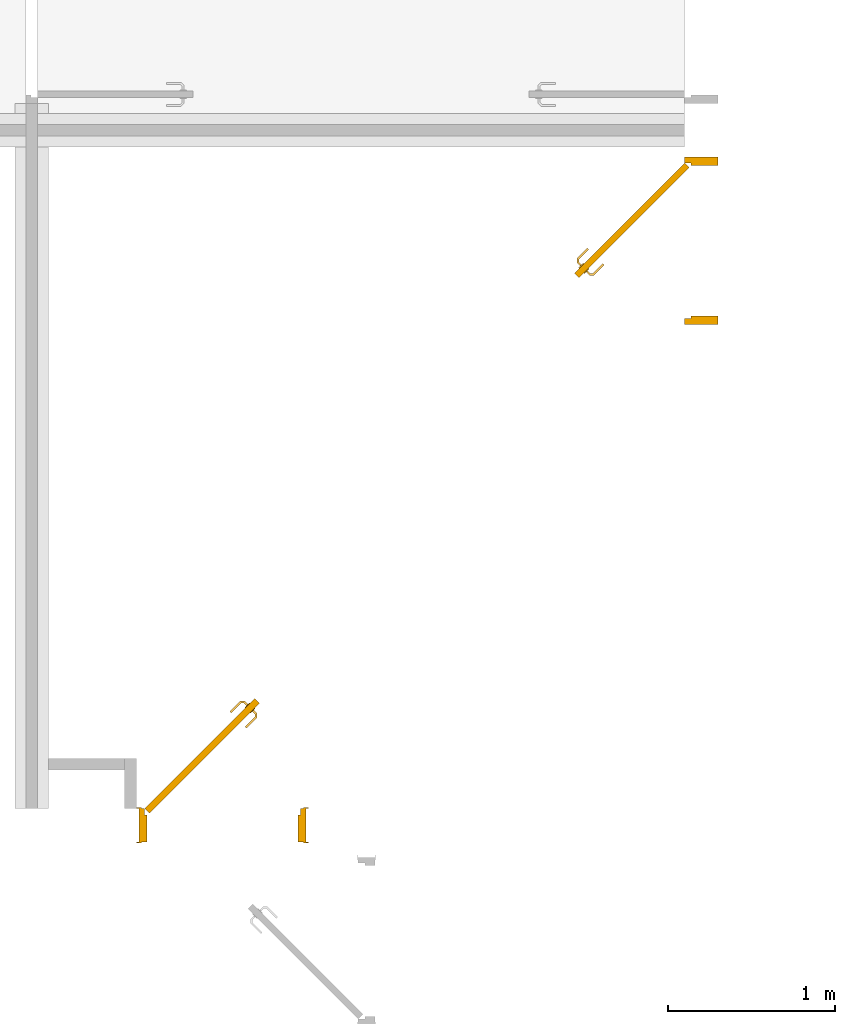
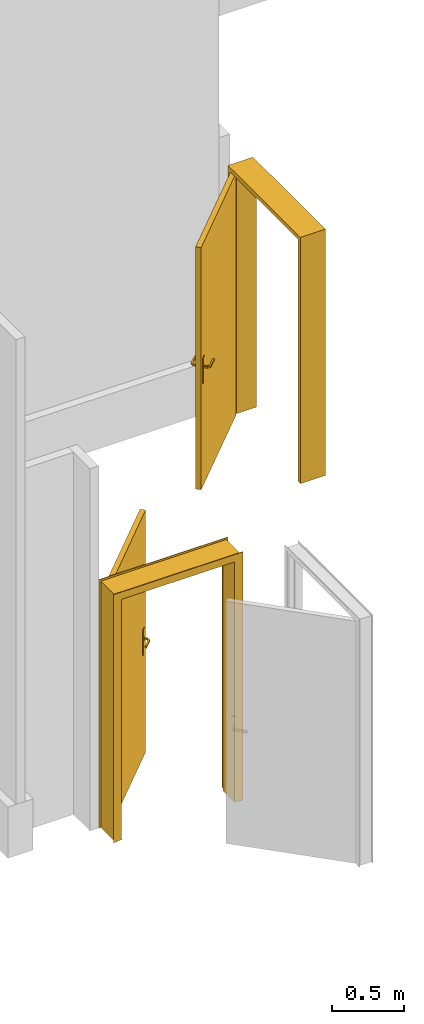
# One storey, part 16 of 18: 2 doors.
"""IFC2X3 building model written with IfcOpenShell, lengths in metres."""

from ifc_helpers import new_model, entity, si_unit, converted_unit, derived_unit, direction, frame, origin, place, context, subcontext, project, spatial, faceted_brep, source, transform, mapped, material, material_list, type_object, type_shapes, element, save


model = new_model("IFC2X3")

# Units and contexts
model_context = context("Model", 3, precision=1e-05, world=origin(), true_north=direction((6.12303176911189e-17, 1.0)))
body_context = subcontext(model_context, "Body", "Model", "MODEL_VIEW")
ifc_project = project(units=[si_unit("LENGTHUNIT", "METRE"), si_unit("AREAUNIT", "SQUARE_METRE"), si_unit("VOLUMEUNIT", "CUBIC_METRE"), converted_unit("PLANEANGLEUNIT", "DEGREE", entity("IfcRatioMeasure", 0.0174532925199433), si_unit("PLANEANGLEUNIT", "RADIAN"), dimensions=[0, 0, 0, 0, 0, 0, 0]), si_unit("MASSUNIT", "GRAM", prefix="KILO"), derived_unit("MASSDENSITYUNIT", [(si_unit("MASSUNIT", "GRAM", prefix="KILO"), 1), (si_unit("LENGTHUNIT", "METRE"), -3)]), si_unit("TIMEUNIT", "SECOND"), si_unit("FREQUENCYUNIT", "HERTZ"), si_unit("THERMODYNAMICTEMPERATUREUNIT", "DEGREE_CELSIUS"), derived_unit("THERMALTRANSMITTANCEUNIT", [(si_unit("MASSUNIT", "GRAM", prefix="KILO"), 1), (si_unit("THERMODYNAMICTEMPERATUREUNIT", "KELVIN"), -1), (si_unit("TIMEUNIT", "SECOND"), -3)]), derived_unit("VOLUMETRICFLOWRATEUNIT", [(si_unit("LENGTHUNIT", "METRE"), 3), (si_unit("TIMEUNIT", "SECOND"), -1)]), si_unit("ELECTRICCURRENTUNIT", "AMPERE"), si_unit("ELECTRICVOLTAGEUNIT", "VOLT"), si_unit("POWERUNIT", "WATT"), si_unit("FORCEUNIT", "NEWTON", prefix="KILO"), si_unit("ILLUMINANCEUNIT", "LUX"), si_unit("LUMINOUSFLUXUNIT", "LUMEN"), si_unit("LUMINOUSINTENSITYUNIT", "CANDELA"), derived_unit("USERDEFINED", [(si_unit("MASSUNIT", "GRAM", prefix="KILO"), -1), (si_unit("LENGTHUNIT", "METRE"), -2), (si_unit("TIMEUNIT", "SECOND"), 3), (si_unit("LUMINOUSFLUXUNIT", "LUMEN"), 1)]), derived_unit("LINEARVELOCITYUNIT", [(si_unit("LENGTHUNIT", "METRE"), 1), (si_unit("TIMEUNIT", "SECOND"), -1)]), si_unit("PRESSUREUNIT", "PASCAL"), derived_unit("USERDEFINED", [(si_unit("LENGTHUNIT", "METRE"), -2), (si_unit("MASSUNIT", "GRAM", prefix="KILO"), 1), (si_unit("TIMEUNIT", "SECOND"), -2)])], contexts=[model_context])

# Site, building, storey
site_placement = place(None, origin())
site = spatial("IfcSite", under=ifc_project, at=site_placement, Name="Surface", CompositionType="ELEMENT")
building_placement = place(site_placement, origin())
building = spatial("IfcBuilding", under=site, at=building_placement, Name="ExPREF", CompositionType="ELEMENT")
storey_placement = place(building_placement, frame((0.0, 0.0, -4.62)))
storey = spatial("IfcBuildingStorey", under=building, at=storey_placement, Name="R-1", CompositionType="ELEMENT", Elevation=-4.62)

# Doors
ifc_material_1 = material(Name="AA-Blanc satiné")
ifc_material_2 = material(Name="AA-Aluminium")
ifc_material_list_1 = material_list([ifc_material_1, ifc_material_2])
ifc_material_list_2 = material_list([ifc_material_1, ifc_material_2])
door_style_1 = type_object("IfcDoorStyle", Name="PP (0.93m x 2.04m) métal", ConstructionType="NOTDEFINED", OperationType="SINGLE_SWING_LEFT", ParameterTakesPrecedence=False, Sizeable=False, material=ifc_material_list_2)
shared_shape_1 = source(origin(), body_context, "Body", "Brep", [
    faceted_brep([(0.316565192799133, -0.584795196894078, 1.00778044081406), (0.313754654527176, -0.587605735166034, 1.007), (0.313754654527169, -0.587605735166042, 0.992999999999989), (0.316565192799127, -0.584795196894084, 0.99221955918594), (0.319429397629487, -0.581930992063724, 0.992219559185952), (0.32223993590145, -0.579120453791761, 0.993000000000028), (0.322239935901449, -0.579120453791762, 1.007), (0.319429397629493, -0.581930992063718, 1.00778044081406), (0.306340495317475, -0.563221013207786, 0.993000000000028), (0.306340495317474, -0.563221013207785, 1.007), (0.302365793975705, -0.564867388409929, 1.00778044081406), (0.302365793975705, -0.545331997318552, 1.00778044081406), (0.298315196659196, -0.543654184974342, 1.00778044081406), (0.298315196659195, -0.566545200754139, 1.00778044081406), (0.294340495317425, -0.568191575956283, 1.007), (0.294340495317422, -0.56819157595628, 0.992999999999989), (0.298315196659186, -0.566545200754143, 0.99221955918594), (0.298315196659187, -0.543654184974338, 0.99221955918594), (0.302365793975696, -0.545331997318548, 0.992219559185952), (0.302365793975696, -0.564867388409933, 0.992219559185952), (0.306340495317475, -0.546978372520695, 0.993000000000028), (0.306340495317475, -0.546978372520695, 1.007), (0.294340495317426, -0.542007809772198, 1.007), (0.294340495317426, -0.542007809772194, 0.992999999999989), (0.36471958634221, -0.488599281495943, 0.993000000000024), (0.361909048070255, -0.485788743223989, 0.992219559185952), (0.359044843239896, -0.482924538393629, 0.99221955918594), (0.356234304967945, -0.480114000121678, 0.992999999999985), (0.356234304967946, -0.480114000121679, 1.007), (0.359044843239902, -0.482924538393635, 1.00778044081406), (0.361909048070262, -0.485788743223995, 1.00778044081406), (0.364719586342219, -0.488599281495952, 1.007), (0.335530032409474, -0.517788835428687, 0.993000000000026), (0.335530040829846, -0.517788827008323, 1.007), (0.330705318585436, -0.51412826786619, 1.0078786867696), (0.322575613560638, -0.513772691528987, 1.007), (0.322575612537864, -0.513772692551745, 0.992999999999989), (0.330705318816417, -0.514128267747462, 0.992121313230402)], [[[0, 1, 2, 3, 4, 5, 6, 7]], [[6, 5, 8, 9]], [[9, 10, 7, 6]], [[10, 11, 12, 13, 0, 7]], [[13, 14, 1, 0]], [[2, 1, 14, 15]], [[15, 16, 3, 2]], [[16, 17, 18, 19, 4, 3]], [[19, 8, 5, 4]], [[9, 8, 20, 21]], [[21, 11, 10, 9]], [[12, 22, 14, 13]], [[15, 14, 22, 23]], [[23, 17, 16, 15]], [[18, 20, 8, 19]], [[24, 25, 26, 27, 28, 29, 30, 31]], [[21, 20, 32, 24, 31, 33]], [[33, 30, 34]], [[35, 34, 29]], [[21, 33, 11]], [[33, 31, 30]], [[28, 35, 29]], [[22, 12, 35]], [[35, 12, 34]], [[12, 11, 34]], [[11, 33, 34]], [[29, 34, 30]], [[22, 35, 28, 27, 36, 23]], [[36, 26, 37]], [[27, 26, 36]], [[17, 23, 36]], [[37, 32, 18]], [[20, 18, 32]], [[32, 25, 24]], [[26, 25, 37]], [[25, 32, 37]], [[17, 36, 37]], [[17, 37, 18]]]),
    faceted_brep([(0.351920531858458, -0.620150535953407, 1.00778044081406), (0.354784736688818, -0.617286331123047, 1.00778044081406), (0.357595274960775, -0.61447579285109, 1.00699999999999), (0.357595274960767, -0.614475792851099, 0.993000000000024), (0.354784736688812, -0.617286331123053, 0.992219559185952), (0.351920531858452, -0.620150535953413, 0.99221955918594), (0.349109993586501, -0.622961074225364, 0.992999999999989), (0.349109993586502, -0.622961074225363, 1.007), (0.368662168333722, -0.642513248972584, 1.007), (0.370308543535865, -0.638538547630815, 1.00778044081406), (0.393005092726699, -0.638538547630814, 1.00778044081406), (0.391327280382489, -0.634487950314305, 1.00778044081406), (0.371986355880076, -0.634487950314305, 1.00778044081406), (0.373632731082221, -0.630513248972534, 1.007), (0.373632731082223, -0.630513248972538, 0.993000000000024), (0.371986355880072, -0.634487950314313, 0.992219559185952), (0.391327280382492, -0.634487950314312, 0.992219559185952), (0.393005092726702, -0.638538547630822, 0.99221955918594), (0.370308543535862, -0.638538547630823, 0.99221955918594), (0.368662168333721, -0.642513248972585, 0.992999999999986), (0.394651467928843, -0.642513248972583, 1.007), (0.389680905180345, -0.630513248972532, 1.007), (0.38968090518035, -0.630513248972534, 0.993000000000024), (0.394651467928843, -0.642513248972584, 0.992999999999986), (0.456623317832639, -0.5805413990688, 0.992999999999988), (0.453812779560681, -0.577730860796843, 0.99221955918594), (0.450948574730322, -0.574866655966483, 0.992219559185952), (0.448138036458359, -0.57205611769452, 0.993000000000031), (0.44813803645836, -0.572056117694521, 1.007), (0.450948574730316, -0.574866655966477, 1.00778044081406), (0.453812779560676, -0.577730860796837, 1.00778044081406), (0.456623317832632, -0.580541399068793, 1.00699999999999), (0.422886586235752, -0.614278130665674, 1.007), (0.422570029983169, -0.606109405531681, 1.0078786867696), (0.418909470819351, -0.601284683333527, 1.007), (0.418909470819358, -0.601284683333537, 0.993000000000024), (0.422570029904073, -0.606109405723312, 0.992121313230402), (0.422886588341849, -0.614278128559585, 0.992999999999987)], [[[0, 1, 2, 3, 4, 5, 6, 7]], [[8, 9, 0, 7]], [[9, 10, 11, 12, 1, 0]], [[12, 13, 2, 1]], [[3, 2, 13, 14]], [[14, 15, 4, 3]], [[15, 16, 17, 18, 5, 4]], [[18, 19, 6, 5]], [[7, 6, 19, 8]], [[20, 10, 9, 8]], [[11, 21, 13, 12]], [[14, 13, 21, 22]], [[22, 16, 15, 14]], [[17, 23, 19, 18]], [[8, 19, 23, 20]], [[24, 25, 26, 27, 28, 29, 30, 31]], [[32, 30, 33]], [[31, 30, 32]], [[10, 20, 32]], [[33, 34, 11]], [[21, 11, 34]], [[34, 29, 28]], [[30, 29, 33]], [[29, 34, 33]], [[10, 32, 33]], [[10, 33, 11]], [[22, 21, 34, 28, 27, 35]], [[35, 26, 36]], [[37, 36, 25]], [[22, 35, 16]], [[35, 27, 26]], [[24, 37, 25]], [[23, 17, 37]], [[37, 17, 36]], [[17, 16, 36]], [[16, 35, 36]], [[25, 36, 26]], [[20, 23, 37, 24, 31, 32]]]),
    faceted_brep([(0.328853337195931, -0.579578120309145, 0.866003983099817), (0.335674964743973, -0.572756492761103, 0.870000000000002), (0.335674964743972, -0.572756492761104, 1.08), (0.32885333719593, -0.579578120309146, 1.08399601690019), (0.321532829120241, -0.586898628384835, 1.08535898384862), (0.314212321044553, -0.594219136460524, 1.08399601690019), (0.307390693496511, -0.601040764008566, 1.08), (0.307390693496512, -0.601040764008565, 0.870000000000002), (0.314212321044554, -0.594219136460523, 0.866003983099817), (0.321532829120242, -0.586898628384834, 0.86464101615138), (0.325317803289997, -0.576042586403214, 1.08399601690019), (0.332139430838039, -0.569220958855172, 1.08), (0.33213943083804, -0.569220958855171, 0.870000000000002), (0.325317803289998, -0.576042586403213, 0.866003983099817), (0.31799729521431, -0.583363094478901, 0.86464101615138), (0.310676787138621, -0.59068360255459, 0.866003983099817), (0.303855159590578, -0.597505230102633, 0.870000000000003), (0.303855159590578, -0.597505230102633, 1.08), (0.31067678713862, -0.590683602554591, 1.08399601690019), (0.317997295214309, -0.583363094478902, 1.08535898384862)], [[[0, 1, 2, 3, 4, 5, 6, 7, 8, 9]], [[10, 11, 12, 13, 14, 15, 16, 17, 18, 19]], [[11, 10, 3, 2]], [[3, 10, 19, 4]], [[19, 18, 5, 4]], [[18, 17, 6, 5]], [[7, 6, 17, 16]], [[16, 15, 8, 7]], [[8, 15, 14, 9]], [[14, 13, 0, 9]], [[13, 12, 1, 0]], [[2, 1, 12, 11]]]),
    faceted_brep([(0.360673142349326, -0.61139792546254, 0.866003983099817), (0.367494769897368, -0.604576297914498, 0.870000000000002), (0.367494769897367, -0.604576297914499, 1.08), (0.360673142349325, -0.611397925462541, 1.08399601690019), (0.353352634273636, -0.61871843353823, 1.08535898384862), (0.346032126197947, -0.626038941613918, 1.08399601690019), (0.339210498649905, -0.63286056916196, 1.08), (0.339210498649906, -0.632860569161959, 0.870000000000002), (0.346032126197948, -0.626038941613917, 0.866003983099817), (0.353352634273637, -0.618718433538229, 0.86464101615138), (0.357137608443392, -0.607862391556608, 1.08399601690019), (0.363959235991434, -0.601040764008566, 1.08), (0.363959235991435, -0.601040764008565, 0.870000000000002), (0.357137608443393, -0.607862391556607, 0.866003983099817), (0.349817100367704, -0.615182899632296, 0.86464101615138), (0.342496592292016, -0.622503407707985, 0.866003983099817), (0.335674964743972, -0.629325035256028, 0.870000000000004), (0.335674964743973, -0.629325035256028, 1.08), (0.342496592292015, -0.622503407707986, 1.08399601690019), (0.349817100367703, -0.615182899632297, 1.08535898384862)], [[[0, 1, 2, 3, 4, 5, 6, 7, 8, 9]], [[10, 11, 12, 13, 14, 15, 16, 17, 18, 19]], [[16, 15, 8, 7]], [[8, 15, 14, 9]], [[14, 13, 0, 9]], [[13, 12, 1, 0]], [[2, 1, 12, 11]], [[11, 10, 3, 2]], [[3, 10, 19, 4]], [[19, 18, 5, 4]], [[18, 17, 6, 5]], [[7, 6, 17, 16]]]),
    faceted_brep([(0.279106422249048, -0.629325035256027, 2.04), (0.936715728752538, 0.0282842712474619, 2.04), (0.936715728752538, 0.0282842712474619, 0.0), (0.279106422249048, -0.629325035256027, 0.0), (0.30739069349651, -0.657609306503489, 2.04), (0.30739069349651, -0.657609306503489, 0.0), (0.965, 0.0, 0.0), (0.965, 0.0, 2.04)], [[[0, 1, 2, 3]], [[4, 5, 6, 7]], [[1, 0, 4, 7]], [[2, 1, 7, 6]], [[3, 2, 6, 5]], [[0, 3, 5, 4]]]),
    faceted_brep([(0.0, 0.0, 0.0), (0.0, 0.200000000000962, 0.0), (0.0499999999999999, 0.200000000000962, 0.0), (0.0499999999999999, 0.040000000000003, 0.0), (0.0349999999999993, 0.040000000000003, 0.0), (0.0349999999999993, 0.0, 0.0), (0.0, 0.0, 2.07500000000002), (0.0, 0.200000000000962, 2.07500000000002), (1.0, 0.200000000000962, 2.07500000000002), (1.0, 0.200000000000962, 0.0), (0.95, 0.200000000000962, 0.0), (0.95, 0.200000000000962, 2.025), (0.0500000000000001, 0.200000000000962, 2.025), (0.05, 0.040000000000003, 2.025), (0.95, 0.040000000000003, 2.025), (0.95, 0.040000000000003, 0.0), (0.965, 0.040000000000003, 0.0), (0.965, 0.040000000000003, 2.04), (0.0349999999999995, 0.040000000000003, 2.04), (0.0349999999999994, 0.0, 2.04), (0.965, 0.0, 2.04), (0.965, 0.0, 0.0), (1.0, 0.0, 0.0), (1.0, 0.0, 2.07500000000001)], [[[0, 1, 2, 3, 4, 5]], [[1, 0, 6, 7]], [[2, 1, 7, 8, 9, 10, 11, 12]], [[3, 2, 12, 13]], [[4, 3, 13, 14, 15, 16, 17, 18]], [[5, 4, 18, 19]], [[0, 5, 19, 20, 21, 22, 23, 6]], [[8, 23, 22, 9]], [[22, 21, 16, 15, 10, 9]], [[14, 11, 10, 15]], [[20, 17, 16, 21]], [[7, 6, 23, 8]], [[13, 12, 11, 14]], [[19, 18, 17, 20]]]),
    faceted_brep([(0.0149999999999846, 0.200000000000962, 0.0), (-0.0150000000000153, 0.200000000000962, 0.0), (-0.0150000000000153, 0.205000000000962, 0.0), (0.0149999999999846, 0.205000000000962, 0.0), (0.0149999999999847, 0.200000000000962, 2.06000000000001), (0.98499999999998, 0.200000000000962, 2.06000000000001), (0.98499999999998, 0.200000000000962, 0.0), (1.01499999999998, 0.200000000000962, 0.0), (1.01499999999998, 0.200000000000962, 2.09000000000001), (-0.0150000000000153, 0.200000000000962, 2.09000000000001), (-0.0150000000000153, 0.205000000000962, 2.09000000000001), (1.01499999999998, 0.205000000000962, 2.09000000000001), (1.01499999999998, 0.205000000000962, 0.0), (0.98499999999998, 0.205000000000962, 0.0), (0.98499999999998, 0.205000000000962, 2.06000000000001), (0.0149999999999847, 0.205000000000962, 2.06000000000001)], [[[0, 1, 2, 3]], [[1, 0, 4, 5, 6, 7, 8, 9]], [[2, 1, 9, 10]], [[3, 2, 10, 11, 12, 13, 14, 15]], [[0, 3, 15, 4]], [[6, 13, 12, 7]], [[5, 14, 13, 6]], [[11, 8, 7, 12]], [[10, 9, 8, 11]], [[4, 15, 14, 5]]]),
    faceted_brep([(-0.0150000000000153, -0.00500000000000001, 0.0), (0.0149999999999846, -0.00500000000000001, 0.0), (0.0149999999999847, -0.00500000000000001, 2.06000000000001), (0.98499999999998, -0.00500000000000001, 2.06000000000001), (0.98499999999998, -0.00500000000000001, 0.0), (1.01499999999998, -0.00500000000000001, 0.0), (1.01499999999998, -0.00500000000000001, 2.09000000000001), (-0.0150000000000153, -0.00500000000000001, 2.09000000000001), (-0.0150000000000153, 0.0, 0.0), (-0.0150000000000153, 0.0, 2.09000000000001), (0.0149999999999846, 0.0, 0.0), (1.01499999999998, 0.0, 2.09000000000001), (1.01499999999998, 0.0, 0.0), (0.98499999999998, 0.0, 0.0), (0.98499999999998, 0.0, 2.06000000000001), (0.0149999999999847, 0.0, 2.06000000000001)], [[[0, 1, 2, 3, 4, 5, 6, 7]], [[8, 0, 7, 9]], [[10, 8, 9, 11, 12, 13, 14, 15]], [[1, 10, 15, 2]], [[3, 14, 13, 4]], [[11, 6, 5, 12]], [[9, 7, 6, 11]], [[2, 15, 14, 3]], [[4, 13, 12, 5]], [[1, 0, 8, 10]]]),
])
type_shapes(door_style_1, [shared_shape_1])
door_1_placement = place(storey_placement, frame((59.1297436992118, -193.259651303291, 0.0), z_axis=(0.0, 0.0, 1.0), x_axis=(-1.0, 0.0, 0.0)))
element("IfcDoor", 1, at=door_1_placement, inside=storey, type_object=door_style_1, material=ifc_material_list_1, Name="Int. Simple:PP (0.93m x 2.04m) métal", ObjectType="PP (0.93m x 2.04m) métal", OverallHeight=2.09000000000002, OverallWidth=1.03, context=body_context, shape_type="MappedRepresentation", body=[
    mapped(shared_shape_1, transform((0.0, 0.0, 0.0), scale=1.0)),
])
door_style_2 = type_object("IfcDoorStyle", Name="PP (0.93m x 2.04m)", ConstructionType="NOTDEFINED", OperationType="SINGLE_SWING_RIGHT", ParameterTakesPrecedence=False, Sizeable=False, material=ifc_material_1)
shared_shape_2 = source(origin(), body_context, "Body", "Brep", [
    faceted_brep([(0.750570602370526, -0.581930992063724, 0.992219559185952), (0.753434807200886, -0.584795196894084, 0.99221955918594), (0.756245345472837, -0.587605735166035, 0.992999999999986), (0.756245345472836, -0.587605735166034, 1.007), (0.75343480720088, -0.584795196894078, 1.00778044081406), (0.75057060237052, -0.581930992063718, 1.00778044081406), (0.747760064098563, -0.579120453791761, 1.007), (0.747760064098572, -0.57912045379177, 0.993000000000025), (0.763659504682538, -0.563221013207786, 1.007), (0.763659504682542, -0.563221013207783, 0.993000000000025), (0.767634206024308, -0.56486738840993, 1.00778044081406), (0.771684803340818, -0.56654520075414, 1.00778044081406), (0.771684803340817, -0.543654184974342, 1.00778044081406), (0.767634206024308, -0.545331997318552, 1.00778044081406), (0.775659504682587, -0.568191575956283, 1.007), (0.775659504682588, -0.568191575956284, 0.992999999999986), (0.771684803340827, -0.566545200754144, 0.99221955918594), (0.767634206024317, -0.564867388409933, 0.992219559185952), (0.767634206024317, -0.545331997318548, 0.992219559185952), (0.771684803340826, -0.543654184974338, 0.99221955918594), (0.763659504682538, -0.546978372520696, 1.007), (0.763659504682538, -0.546978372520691, 0.993000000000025), (0.775659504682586, -0.542007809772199, 1.007), (0.775659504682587, -0.542007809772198, 0.992999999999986), (0.708090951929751, -0.485788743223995, 1.00778044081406), (0.710955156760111, -0.482924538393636, 1.00778044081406), (0.713765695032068, -0.480114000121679, 1.007), (0.713765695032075, -0.480114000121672, 0.992999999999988), (0.710955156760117, -0.48292453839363, 0.99221955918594), (0.708090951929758, -0.485788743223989, 0.992219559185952), (0.705280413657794, -0.488599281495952, 0.993000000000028), (0.705280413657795, -0.488599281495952, 1.007), (0.734469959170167, -0.517788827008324, 1.007), (0.734469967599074, -0.517788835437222, 0.993000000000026), (0.739294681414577, -0.51412826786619, 1.0078786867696), (0.747424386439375, -0.513772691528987, 1.007), (0.747424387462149, -0.513772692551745, 0.992999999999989), (0.739294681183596, -0.514128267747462, 0.992121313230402)], [[[0, 1, 2, 3, 4, 5, 6, 7]], [[8, 9, 7, 6]], [[5, 10, 8, 6]], [[5, 4, 11, 12, 13, 10]], [[3, 14, 11, 4]], [[14, 3, 2, 15]], [[2, 1, 16, 15]], [[1, 0, 17, 18, 19, 16]], [[0, 7, 9, 17]], [[20, 21, 9, 8]], [[8, 10, 13, 20]], [[14, 22, 12, 11]], [[23, 22, 14, 15]], [[15, 16, 19, 23]], [[17, 9, 21, 18]], [[24, 25, 26, 27, 28, 29, 30, 31]], [[21, 20, 32, 31, 30, 33]], [[34, 24, 32]], [[25, 34, 35]], [[13, 32, 20]], [[24, 31, 32]], [[25, 35, 26]], [[35, 12, 22]], [[34, 12, 35]], [[34, 13, 12]], [[34, 32, 13]], [[24, 34, 25]], [[22, 23, 36, 27, 26, 35]], [[37, 28, 36]], [[36, 28, 27]], [[36, 23, 19]], [[18, 33, 37]], [[33, 18, 21]], [[30, 29, 33]], [[37, 29, 28]], [[37, 33, 29]], [[37, 36, 19]], [[18, 37, 19]]]),
    faceted_brep([(0.715215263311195, -0.617286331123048, 1.00778044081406), (0.718079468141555, -0.620150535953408, 1.00778044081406), (0.720890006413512, -0.622961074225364, 1.00699999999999), (0.720890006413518, -0.622961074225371, 0.992999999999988), (0.718079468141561, -0.620150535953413, 0.99221955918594), (0.715215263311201, -0.617286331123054, 0.992219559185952), (0.712404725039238, -0.614475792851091, 0.993000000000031), (0.712404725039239, -0.614475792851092, 1.007), (0.699691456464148, -0.638538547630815, 1.00778044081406), (0.701337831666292, -0.642513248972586, 1.007), (0.698013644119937, -0.634487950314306, 1.00778044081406), (0.678672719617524, -0.634487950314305, 1.00778044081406), (0.676994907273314, -0.638538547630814, 1.00778044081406), (0.696367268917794, -0.630513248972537, 1.007), (0.696367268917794, -0.630513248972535, 0.993000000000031), (0.698013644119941, -0.634487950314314, 0.992219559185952), (0.699691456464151, -0.638538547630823, 0.99221955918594), (0.676994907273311, -0.638538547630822, 0.99221955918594), (0.678672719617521, -0.634487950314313, 0.992219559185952), (0.701337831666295, -0.642513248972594, 0.992999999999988), (0.67534853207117, -0.642513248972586, 1.007), (0.680319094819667, -0.630513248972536, 1.007), (0.680319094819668, -0.630513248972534, 0.993000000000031), (0.675348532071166, -0.642513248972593, 0.992999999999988), (0.613376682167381, -0.580541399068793, 1.007), (0.616187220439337, -0.577730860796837, 1.00778044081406), (0.619051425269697, -0.574866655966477, 1.00778044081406), (0.621861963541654, -0.57205611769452, 1.00699999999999), (0.621861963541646, -0.572056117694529, 0.993000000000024), (0.619051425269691, -0.574866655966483, 0.992219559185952), (0.616187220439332, -0.577730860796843, 0.99221955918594), (0.613376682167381, -0.580541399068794, 0.992999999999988), (0.647429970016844, -0.606109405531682, 1.0078786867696), (0.647113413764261, -0.614278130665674, 1.007), (0.651090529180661, -0.601284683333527, 1.007), (0.651090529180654, -0.601284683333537, 0.993000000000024), (0.64742997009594, -0.606109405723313, 0.992121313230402), (0.64711341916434, -0.61427813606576, 0.992999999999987)], [[[0, 1, 2, 3, 4, 5, 6, 7]], [[2, 1, 8, 9]], [[1, 0, 10, 11, 12, 8]], [[0, 7, 13, 10]], [[14, 13, 7, 6]], [[5, 15, 14, 6]], [[5, 4, 16, 17, 18, 15]], [[3, 19, 16, 4]], [[9, 19, 3, 2]], [[9, 8, 12, 20]], [[10, 13, 21, 11]], [[22, 21, 13, 14]], [[14, 15, 18, 22]], [[16, 19, 23, 17]], [[20, 23, 19, 9]], [[24, 25, 26, 27, 28, 29, 30, 31]], [[32, 25, 33]], [[33, 25, 24]], [[33, 20, 12]], [[11, 34, 32]], [[34, 11, 21]], [[27, 26, 34]], [[32, 26, 25]], [[32, 34, 26]], [[32, 33, 12]], [[11, 32, 12]], [[21, 22, 35, 28, 27, 34]], [[36, 29, 35]], [[30, 36, 37]], [[18, 35, 22]], [[29, 28, 35]], [[30, 37, 31]], [[37, 17, 23]], [[36, 17, 37]], [[36, 18, 17]], [[36, 35, 18]], [[29, 36, 30]], [[23, 20, 33, 24, 31, 37]]]),
    faceted_brep([(0.762609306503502, -0.601040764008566, 0.870000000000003), (0.762609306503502, -0.601040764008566, 1.08), (0.75578767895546, -0.594219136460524, 1.08399601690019), (0.748467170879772, -0.586898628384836, 1.08535898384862), (0.741146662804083, -0.579578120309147, 1.08399601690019), (0.734325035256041, -0.572756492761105, 1.08), (0.73432503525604, -0.572756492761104, 0.870000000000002), (0.741146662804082, -0.579578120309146, 0.866003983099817), (0.748467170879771, -0.586898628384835, 0.86464101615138), (0.755787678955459, -0.594219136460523, 0.866003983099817), (0.752002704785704, -0.583363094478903, 1.08535898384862), (0.759323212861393, -0.590683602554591, 1.08399601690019), (0.766144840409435, -0.597505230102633, 1.08), (0.766144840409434, -0.597505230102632, 0.870000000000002), (0.759323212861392, -0.59068360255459, 0.866003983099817), (0.752002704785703, -0.583363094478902, 0.86464101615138), (0.744682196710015, -0.576042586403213, 0.866003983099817), (0.737860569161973, -0.569220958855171, 0.870000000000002), (0.737860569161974, -0.569220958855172, 1.08), (0.744682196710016, -0.576042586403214, 1.08399601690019)], [[[0, 1, 2, 3, 4, 5, 6, 7, 8, 9]], [[10, 11, 12, 13, 14, 15, 16, 17, 18, 19]], [[4, 19, 18, 5]], [[3, 10, 19, 4]], [[2, 11, 10, 3]], [[2, 1, 12, 11]], [[13, 12, 1, 0]], [[9, 14, 13, 0]], [[8, 15, 14, 9]], [[7, 16, 15, 8]], [[7, 6, 17, 16]], [[17, 6, 5, 18]]]),
    faceted_brep([(0.730789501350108, -0.632860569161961, 0.870000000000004), (0.730789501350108, -0.632860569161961, 1.08), (0.723967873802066, -0.626038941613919, 1.08399601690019), (0.716647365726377, -0.61871843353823, 1.08535898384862), (0.709326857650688, -0.611397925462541, 1.08399601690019), (0.702505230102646, -0.604576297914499, 1.08), (0.702505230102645, -0.604576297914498, 0.870000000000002), (0.709326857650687, -0.61139792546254, 0.866003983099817), (0.716647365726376, -0.618718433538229, 0.86464101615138), (0.723967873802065, -0.626038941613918, 0.866003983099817), (0.73432503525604, -0.629325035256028, 1.08), (0.73432503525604, -0.629325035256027, 0.870000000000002), (0.727503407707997, -0.622503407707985, 0.866003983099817), (0.720182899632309, -0.615182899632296, 0.86464101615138), (0.71286239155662, -0.607862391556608, 0.866003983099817), (0.706040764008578, -0.601040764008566, 0.870000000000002), (0.706040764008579, -0.601040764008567, 1.08), (0.712862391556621, -0.607862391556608, 1.08399601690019), (0.72018289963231, -0.615182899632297, 1.08535898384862), (0.727503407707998, -0.622503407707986, 1.08399601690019)], [[[0, 1, 2, 3, 4, 5, 6, 7, 8, 9]], [[10, 11, 12, 13, 14, 15, 16, 17, 18, 19]], [[9, 12, 11, 0]], [[8, 13, 12, 9]], [[7, 14, 13, 8]], [[7, 6, 15, 14]], [[15, 6, 5, 16]], [[4, 17, 16, 5]], [[3, 18, 17, 4]], [[2, 19, 18, 3]], [[2, 1, 10, 19]], [[11, 10, 1, 0]]]),
    faceted_brep([(0.790893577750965, -0.629325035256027, 2.04), (0.790893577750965, -0.629325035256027, 0.0), (0.133284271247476, 0.0282842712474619, 0.0), (0.133284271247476, 0.0282842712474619, 2.04), (0.762609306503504, -0.657609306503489, 2.04), (0.105000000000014, 0.0, 2.04), (0.105000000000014, 0.0, 0.0), (0.762609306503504, -0.657609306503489, 0.0)], [[[0, 1, 2, 3]], [[4, 5, 6, 7]], [[3, 5, 4, 0]], [[2, 6, 5, 3]], [[1, 7, 6, 2]], [[0, 4, 7, 1]]]),
    faceted_brep([(1.07000000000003, 0.0, 0.0), (1.03500000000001, 0.0, 0.0), (1.03500000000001, 0.040000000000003, 0.0), (1.02000000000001, 0.040000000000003, 0.0), (1.02000000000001, 0.200000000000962, 0.0), (1.07000000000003, 0.200000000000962, 0.0), (1.07000000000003, 0.200000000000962, 2.07500000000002), (1.07000000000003, 0.0, 2.07500000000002), (1.02000000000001, 0.200000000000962, 2.025), (0.120000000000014, 0.200000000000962, 2.025), (0.120000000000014, 0.200000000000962, 0.0), (0.0699999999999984, 0.200000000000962, 0.0), (0.0699999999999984, 0.200000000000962, 2.07500000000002), (1.02000000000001, 0.040000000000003, 2.025), (1.03500000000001, 0.040000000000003, 2.04), (0.105000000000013, 0.040000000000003, 2.04), (0.105000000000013, 0.040000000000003, 0.0), (0.120000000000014, 0.040000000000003, 0.0), (0.120000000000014, 0.040000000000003, 2.025), (1.03500000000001, 0.0, 2.04), (0.0699999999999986, 0.0, 2.07500000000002), (0.0699999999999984, 0.0, 0.0), (0.105000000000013, 0.0, 0.0), (0.105000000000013, 0.0, 2.04)], [[[0, 1, 2, 3, 4, 5]], [[5, 6, 7, 0]], [[4, 8, 9, 10, 11, 12, 6, 5]], [[3, 13, 8, 4]], [[2, 14, 15, 16, 17, 18, 13, 3]], [[1, 19, 14, 2]], [[0, 7, 20, 21, 22, 23, 19, 1]], [[12, 11, 21, 20]], [[21, 11, 10, 17, 16, 22]], [[18, 17, 10, 9]], [[23, 22, 16, 15]], [[6, 12, 20, 7]], [[13, 18, 9, 8]], [[19, 23, 15, 14]]]),
])
type_shapes(door_style_2, [shared_shape_2])
door_2_placement = place(storey_placement, frame((61.3897436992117, -189.298069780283, 0.0), z_axis=(0.0, 0.0, 1.0), x_axis=(0.0, -1.0, 0.0)))
element("IfcDoor", 2, at=door_2_placement, inside=storey, type_object=door_style_2, material=ifc_material_1, Name="Porte intérieur bois:PP (0.93m x 2.04m)", ObjectType="PP (0.93m x 2.04m)", OverallHeight=2.07500000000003, OverallWidth=1.00000000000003, context=body_context, shape_type="MappedRepresentation", body=[
    mapped(shared_shape_2, transform((0.0, 0.0, 0.0), scale=1.0)),
])

save(model, "model.ifc")
